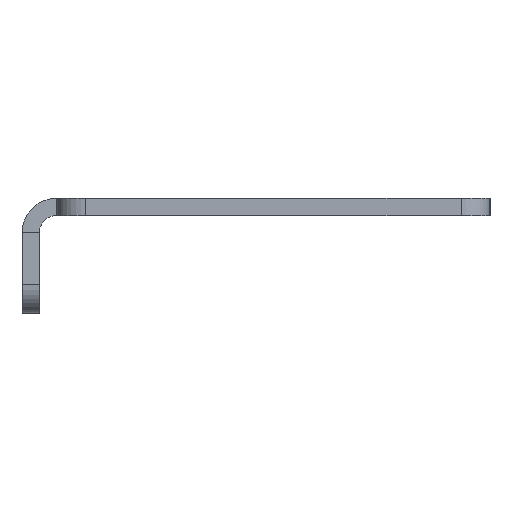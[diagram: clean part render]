
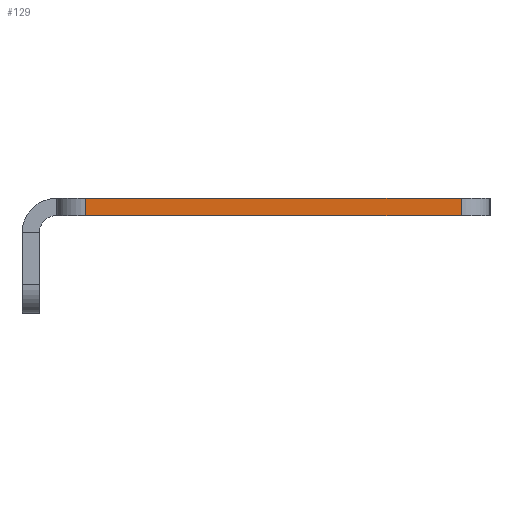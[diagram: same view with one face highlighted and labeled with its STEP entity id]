
A CAD part, left-side view. The second image highlights one B-rep face of the part: STEP entity #129.
In plain terms, the highlighted planar face has unit normal (-1, 0, 0).
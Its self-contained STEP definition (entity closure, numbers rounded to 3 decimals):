
#90 = DIRECTION ( 'NONE',  ( 0., 0., -1. ) ) ;
#115 = VERTEX_POINT ( 'NONE', #1840 ) ;
#122 = VECTOR ( 'NONE', #1183, 1000. ) ;
#129 = ADVANCED_FACE ( 'NONE', ( #1987 ), #1027, .T. ) ;
#193 = CARTESIAN_POINT ( 'NONE',  ( -290., -37.5, -3. ) ) ;
#232 = LINE ( 'NONE', #1740, #1364 ) ;
#253 = DIRECTION ( 'NONE',  ( 0., -1., 0. ) ) ;
#319 = ORIENTED_EDGE ( 'NONE', *, *, #1126, .F. ) ;
#336 = DIRECTION ( 'NONE',  ( 0., 0., 1. ) ) ;
#407 = ORIENTED_EDGE ( 'NONE', *, *, #2105, .T. ) ;
#412 = CARTESIAN_POINT ( 'NONE',  ( -290., -32.5, -3. ) ) ;
#415 = LINE ( 'NONE', #1050, #2069 ) ;
#519 = VERTEX_POINT ( 'NONE', #1698 ) ;
#753 = CARTESIAN_POINT ( 'NONE',  ( -290., 32.5, -3. ) ) ;
#865 = LINE ( 'NONE', #1029, #122 ) ;
#944 = DIRECTION ( 'NONE',  ( 0., -1., 0. ) ) ;
#946 = ORIENTED_EDGE ( 'NONE', *, *, #1066, .T. ) ;
#963 = LINE ( 'NONE', #1300, #2041 ) ;
#1027 = PLANE ( 'NONE',  #1503 ) ;
#1029 = CARTESIAN_POINT ( 'NONE',  ( -290., -32.5, -3. ) ) ;
#1050 = CARTESIAN_POINT ( 'NONE',  ( -290., 32.5, -3. ) ) ;
#1066 = EDGE_CURVE ( 'NONE', #115, #1106, #415, .T. ) ;
#1106 = VERTEX_POINT ( 'NONE', #753 ) ;
#1107 = EDGE_CURVE ( 'NONE', #1106, #1361, #232, .T. ) ;
#1126 = EDGE_CURVE ( 'NONE', #115, #519, #963, .T. ) ;
#1183 = DIRECTION ( 'NONE',  ( 0., 0., 1. ) ) ;
#1300 = CARTESIAN_POINT ( 'NONE',  ( -290., -37.5, 0. ) ) ;
#1361 = VERTEX_POINT ( 'NONE', #412 ) ;
#1364 = VECTOR ( 'NONE', #253, 1000. ) ;
#1415 = EDGE_LOOP ( 'NONE', ( #1564, #407, #319, #946 ) ) ;
#1503 = AXIS2_PLACEMENT_3D ( 'NONE', #193, #1686, #336 ) ;
#1564 = ORIENTED_EDGE ( 'NONE', *, *, #1107, .T. ) ;
#1686 = DIRECTION ( 'NONE',  ( -1., 0., 0. ) ) ;
#1698 = CARTESIAN_POINT ( 'NONE',  ( -290., -32.5, 0. ) ) ;
#1740 = CARTESIAN_POINT ( 'NONE',  ( -290., -37.5, -3. ) ) ;
#1840 = CARTESIAN_POINT ( 'NONE',  ( -290., 32.5, 0. ) ) ;
#1987 = FACE_OUTER_BOUND ( 'NONE', #1415, .T. ) ;
#2041 = VECTOR ( 'NONE', #944, 1000. ) ;
#2069 = VECTOR ( 'NONE', #90, 1000. ) ;
#2105 = EDGE_CURVE ( 'NONE', #1361, #519, #865, .T. ) ;
